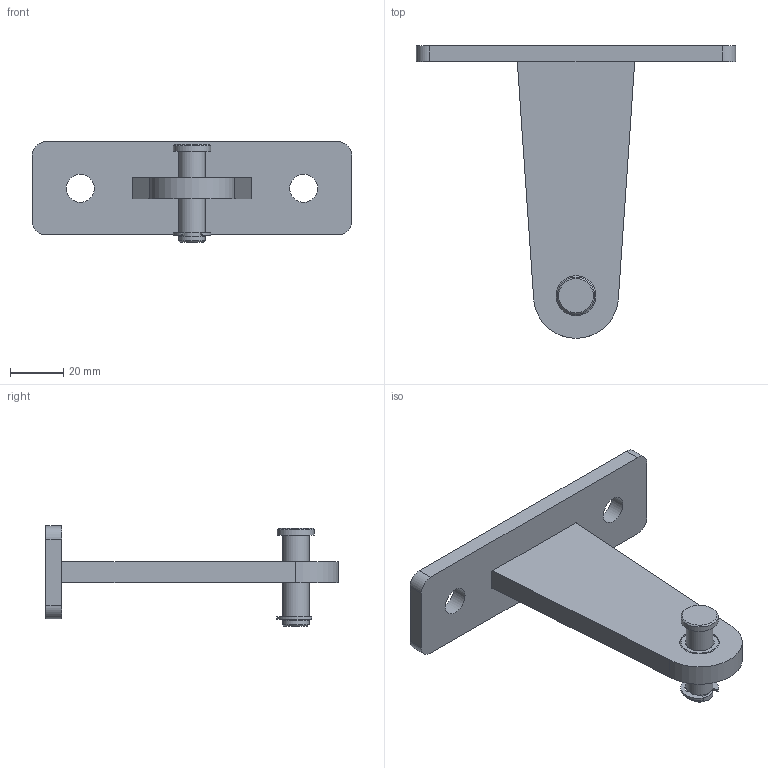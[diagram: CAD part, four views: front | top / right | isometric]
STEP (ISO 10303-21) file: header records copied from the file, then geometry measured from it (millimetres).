
FILE_DESCRIPTION(/* description */ ('Unknown'),/* implementation_level */ '2;1');
FILE_NAME(/* name */ 'MLS_SFR P2',/* time_stamp */ '2021-06-22T15:07:15+02:00',/* author */ ('Unknown'),/* organization */ ('Unknown'),/* preprocessor_version */ 'ST-DEVELOPER v16.7',/* originating_system */ 'DEX',/* authorisation */ $);
FILE_SCHEMA (('AUTOMOTIVE_DESIGN {1 0 10303 214 3 1 1}'));
Length unit declared in the file: millimetre
Products named in the file (6): 382480; 382480 P1; 341240; 331570; 130603
Assembly tree (5 placements, depth 2):
  382480
    382480
    382480 P1
    341240
    331570
    130603
Bounding box: 120 x 110 x 37.8 mm (x, y, z)
Volume: 56494.2 mm3; surface area: 22982.2 mm2
Topology: 5 solids, 5 shells, 64 faces, 151 edges, 100 vertices
Faces by surface type: plane 30, cylinder 28, cone 6
Full cylindrical faces by diameter (mm): 8 x1, 10 x3, 10.5 x2, 14 x1, 15 x2
Entity records: 1925 total; most frequent: DIRECTION 334, CARTESIAN_POINT 298, ORIENTED_EDGE 264, EDGE_CURVE 132, AXIS2_PLACEMENT_3D 132, VERTEX_POINT 96, EDGE_LOOP 92, FACE_BOUND 92
